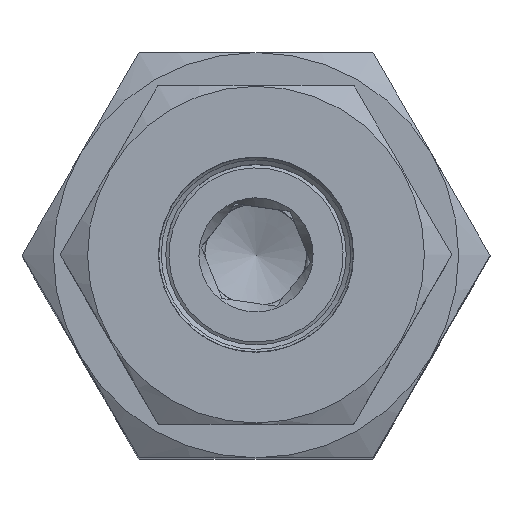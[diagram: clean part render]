
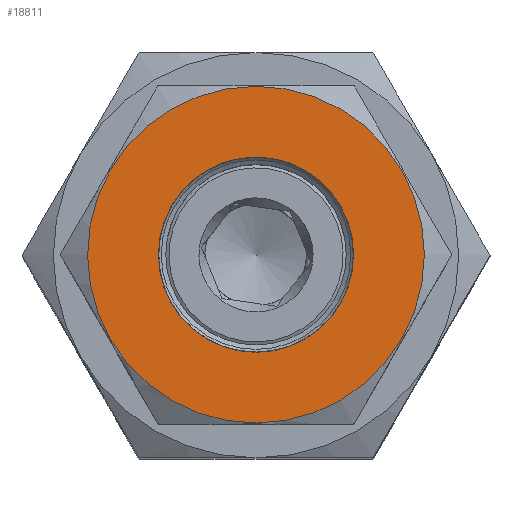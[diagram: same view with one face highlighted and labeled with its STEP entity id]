
A CAD part, top view. The second image highlights one B-rep face of the part: STEP entity #18811.
In plain terms, the highlighted planar face has unit normal (0, 0, 1) as drawn and (-1, 0, 0) by its records, which use the part's own axes.
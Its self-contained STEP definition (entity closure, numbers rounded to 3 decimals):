
#256 = DIRECTION ( 'NONE',  ( 1., 0., 0. ) ) ;
#762 = CARTESIAN_POINT ( 'NONE',  ( 0., 0., 0. ) ) ;
#3427 = VERTEX_POINT ( 'NONE', #17348 ) ;
#3639 = CARTESIAN_POINT ( 'NONE',  ( 0., 0., 13.25 ) ) ;
#5016 = CARTESIAN_POINT ( 'NONE',  ( 0., 0., 0. ) ) ;
#5741 = VERTEX_POINT ( 'NONE', #3639 ) ;
#6285 = EDGE_LOOP ( 'NONE', ( #18698 ) ) ;
#7115 = FACE_BOUND ( 'NONE', #13400, .T. ) ;
#8197 = CIRCLE ( 'NONE', #10772, 13.25 ) ;
#8396 = PLANE ( 'NONE',  #14437 ) ;
#9665 = AXIS2_PLACEMENT_3D ( 'NONE', #762, #14684, #16196 ) ;
#10772 = AXIS2_PLACEMENT_3D ( 'NONE', #19618, #256, #14190 ) ;
#12447 = DIRECTION ( 'NONE',  ( 0., 0., 1. ) ) ;
#13400 = EDGE_LOOP ( 'NONE', ( #16651 ) ) ;
#14190 = DIRECTION ( 'NONE',  ( 0., 0., 1. ) ) ;
#14437 = AXIS2_PLACEMENT_3D ( 'NONE', #5016, #17429, #12447 ) ;
#14684 = DIRECTION ( 'NONE',  ( -1., 0., 0. ) ) ;
#16196 = DIRECTION ( 'NONE',  ( 0., 0., 1. ) ) ;
#16651 = ORIENTED_EDGE ( 'NONE', *, *, #19886, .T. ) ;
#17348 = CARTESIAN_POINT ( 'NONE',  ( 0., 0., 22.85 ) ) ;
#17429 = DIRECTION ( 'NONE',  ( -1., 0., 0. ) ) ;
#18371 = EDGE_CURVE ( 'NONE', #3427, #3427, #19652, .T. ) ;
#18698 = ORIENTED_EDGE ( 'NONE', *, *, #18371, .T. ) ;
#18811 = ADVANCED_FACE ( 'NONE', ( #7115, #19403 ), #8396, .T. ) ;
#19403 = FACE_OUTER_BOUND ( 'NONE', #6285, .T. ) ;
#19618 = CARTESIAN_POINT ( 'NONE',  ( 0., 0., 0. ) ) ;
#19652 = CIRCLE ( 'NONE', #9665, 22.85 ) ;
#19886 = EDGE_CURVE ( 'NONE', #5741, #5741, #8197, .T. ) ;
